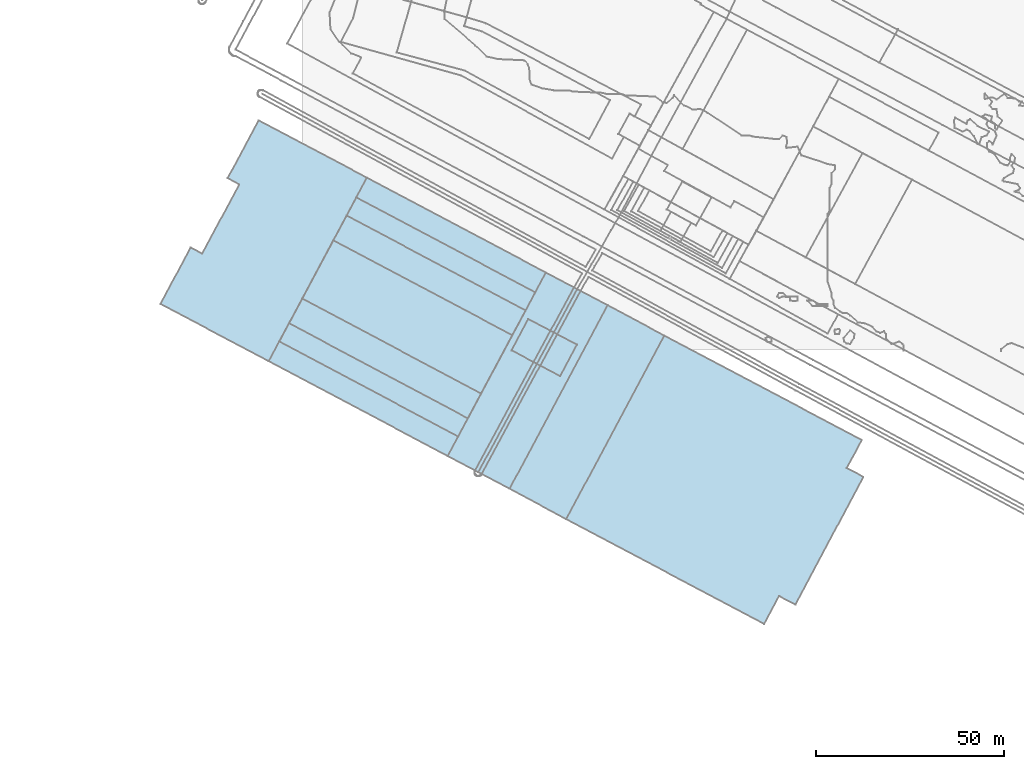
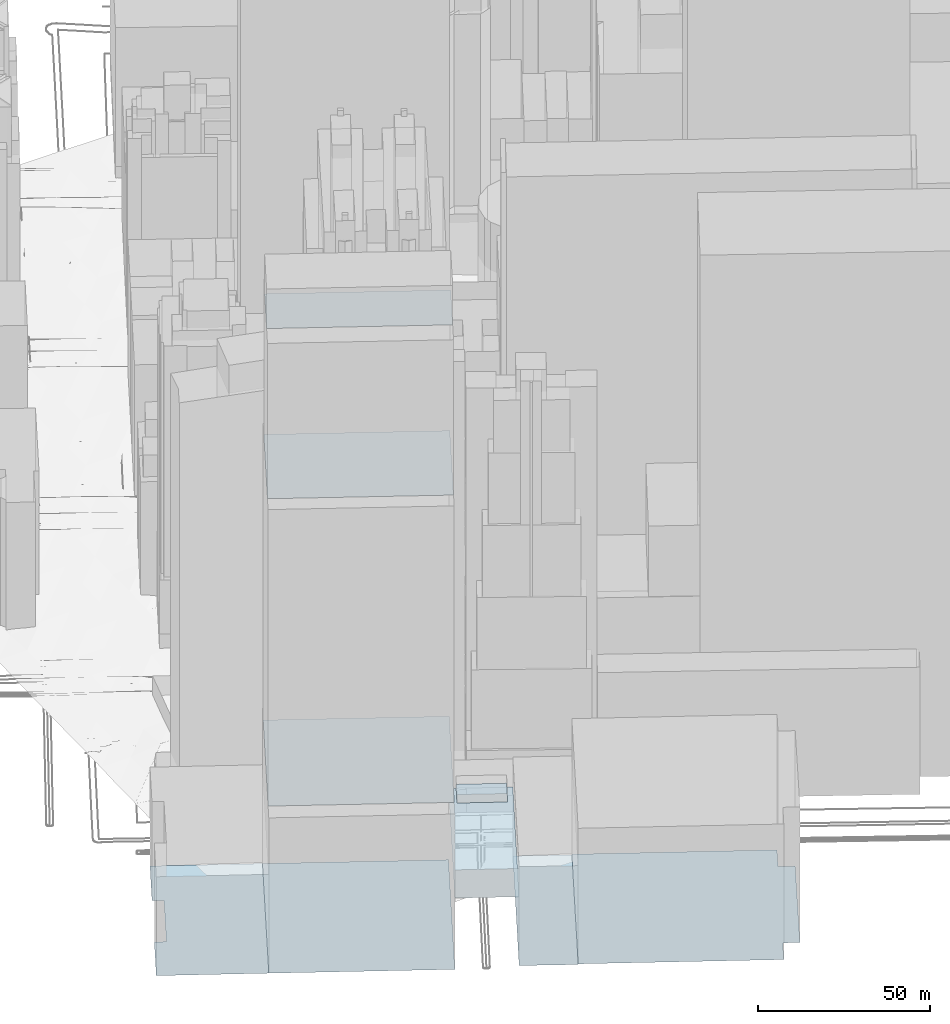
# Not in any storey, part 1 of 80: 9 footings.
"""IFC4 building model written with IfcOpenShell, lengths in metres."""

from ifc_helpers import new_model, si_unit, frame, origin_with_axes, place, context, subcontext, project, spatial, polygons, element, save


model = new_model("IFC4")

# Units and contexts
model_context = context("Model", 3, precision=1e-05, world=origin_with_axes())
body_context = subcontext(model_context, "Body", "Model", "MODEL_VIEW")
ifc_project = project(units=[si_unit("AREAUNIT", "SQUARE_METRE"), si_unit("LENGTHUNIT", "METRE")], contexts=[model_context])

# Sites, building
site_1_placement = place(None, origin_with_axes())
site_1 = spatial("IfcSite", under=ifc_project, at=site_1_placement, Name="Topoexport Site")
site_2_placement = place(site_1_placement, origin_with_axes())
site_2 = spatial("IfcSite", under=site_1, at=site_2_placement, Name="TPX_BATIMENTS")
building_1_placement = place(site_2_placement, frame((70.4319082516, -45.3124381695, 19.6413035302), z_axis=(0.0, 0.0, 1.0), x_axis=(1.0, 0.0, 0.0)))
building_1 = spatial("IfcBuilding", under=site_2, at=building_1_placement, Name="Batiment 153", CompositionType="ELEMENT")

# Footing
footing_1_placement = place(None, frame((70.4319082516, -45.3124381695, 19.6413035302), z_axis=(0.0, 0.0, 1.0), x_axis=(1.0, 0.0, 0.0)))
element("IfcFooting", 1, at=footing_1_placement, inside=building_1, Name="Sol 0", context=body_context, shape_type="Tessellation", body=[
    polygons([(0.0, 0.0, 0.0), (52.7563009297, -27.9312178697, 0.0), (56.721804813, -20.4799520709, 0.0), (61.1215341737, -22.7936176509, 0.0), (79.2214604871, 11.2896457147, 0.0), (74.804734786, 13.6142050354, 0.0), (78.7949988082, 21.1101810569, 0.0), (26.1498243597, 48.9425792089, 0.0)], [[[2, 1, 8]], [[5, 4, 3]], [[8, 7, 6]], [[3, 2, 8]], [[6, 5, 3]], [[3, 8, 6]]]),
])

# Building
building_2_placement = place(site_2_placement, frame((-37.764592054, 12.0631870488, 18.5499973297), z_axis=(0.0, 0.0, 1.0), x_axis=(1.0, 0.0, 0.0)))
building_2 = spatial("IfcBuilding", under=site_2, at=building_2_placement, Name="Batiment 198", CompositionType="ELEMENT")

# Footing
footing_2_placement = place(None, frame((-37.764592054, 12.0631870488, 18.5499973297), z_axis=(0.0, 0.0, 1.0), x_axis=(1.0, 0.0, 0.0)))
element("IfcFooting", 2, at=footing_2_placement, inside=building_2, Name="Sol 0", context=body_context, shape_type="Tessellation", body=[
    polygons([(0.0, 0.0, 0.0), (28.8870060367, -15.2414440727, 0.0), (55.0371870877, 33.7008524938, 0.0), (26.1587518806, 48.9422915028, 0.0), (17.9295410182, 33.536852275, 0.0), (21.0212047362, 31.907372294, 0.0), (11.1393837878, 13.4185558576, 0.0), (8.0475860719, 15.0591407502, 0.0)], [[[2, 1, 8]], [[4, 3, 2]], [[6, 5, 4]], [[2, 8, 7]], [[6, 4, 2]], [[2, 7, 6]]]),
])

# Building
building_3_placement = place(site_2_placement, frame((0.0457305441, 13.5231043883, 233.5817263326), z_axis=(0.0, 0.0, 1.0), x_axis=(1.0, 0.0, 0.0)))
building_3 = spatial("IfcBuilding", under=site_2, at=building_3_placement, Name="Batiment 218", CompositionType="ELEMENT")

# Footing
footing_3_placement = place(None, frame((0.0457305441, 13.5231043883, 233.5817263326), z_axis=(0.0, 0.0, 1.0), x_axis=(1.0, 0.0, 0.0)))
element("IfcFooting", 3, at=footing_3_placement, inside=building_3, Name="Sol 0", context=body_context, shape_type="Tessellation", body=[
    polygons([(0.0, 0.0, 0.0), (47.6860402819, -25.3593207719, 0.0), (56.0060946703, -9.7862176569, 0.0), (8.2954448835, 15.5172515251, 0.0)], [[[2, 1, 4]], [[4, 3, 2]]]),
])

# Building
building_4_placement = place(site_2_placement, frame((-3.482289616, 6.9207531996, 178.5499973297), z_axis=(0.0, 0.0, 1.0), x_axis=(1.0, 0.0, 0.0)))
building_4 = spatial("IfcBuilding", under=site_2, at=building_4_placement, Name="Batiment 219", CompositionType="ELEMENT")

# Footing
footing_4_placement = place(None, frame((-3.482289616, 6.9207531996, 178.5499973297), z_axis=(0.0, 0.0, 1.0), x_axis=(1.0, 0.0, 0.0)))
element("IfcFooting", 4, at=footing_4_placement, inside=building_4, Name="Sol 0", context=body_context, shape_type="Tessellation", body=[
    polygons([(0.0, 0.0, 0.0), (47.6860692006, -25.359343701, 0.0), (63.0622131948, 3.4074130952, 0.0), (15.3430229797, 28.7218621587, 0.0)], [[[2, 1, 4]], [[4, 3, 2]]]),
])

# Building
building_5_placement = place(site_2_placement, frame((-6.0684346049, 2.0834835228, 73.5499973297), z_axis=(0.0, 0.0, 1.0), x_axis=(1.0, 0.0, 0.0)))
building_5 = spatial("IfcBuilding", under=site_2, at=building_5_placement, Name="Batiment 220", CompositionType="ELEMENT")

# Footing
footing_5_placement = place(None, frame((-6.0684346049, 2.0834835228, 73.5499973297), z_axis=(0.0, 0.0, 1.0), x_axis=(1.0, 0.0, 0.0)))
element("IfcFooting", 5, at=footing_5_placement, inside=building_5, Name="Sol 0", context=body_context, shape_type="Tessellation", body=[
    polygons([(0.0, 0.0, 0.0), (47.6862192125, -25.3704612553, 0.0), (68.234328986, 13.0930768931, 0.0), (20.5236005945, 38.4076070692, 0.0)], [[[2, 1, 4]], [[4, 3, 2]]]),
])

# Building
building_6_placement = place(site_2_placement, frame((-8.8775860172, -3.1782570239, 18.5499973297), z_axis=(0.0, 0.0, 1.0), x_axis=(1.0, 0.0, 0.0)))
building_6 = spatial("IfcBuilding", under=site_2, at=building_6_placement, Name="Batiment 221", CompositionType="ELEMENT")

# Footing
footing_6_placement = place(None, frame((-8.8775860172, -3.1782570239, 18.5499973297), z_axis=(0.0, 0.0, 1.0), x_axis=(1.0, 0.0, 0.0)))
element("IfcFooting", 6, at=footing_6_placement, inside=building_6, Name="Sol 0", context=body_context, shape_type="Tessellation", body=[
    polygons([(0.0, 0.0, 0.0), (47.7107911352, -25.3035811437, 0.0), (73.869197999, 23.6389834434, 0.0), (26.150181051, 48.9422965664, 0.0)], [[[2, 1, 4]], [[4, 3, 2]]]),
])

# Building
building_7_placement = place(site_2_placement, frame((55.3366535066, -37.1942935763, 19.4063848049), z_axis=(0.0, 0.0, 1.0), x_axis=(1.0, 0.0, 0.0)))
building_7 = spatial("IfcBuilding", under=site_2, at=building_7_placement, Name="Batiment 222", CompositionType="ELEMENT")

# Footing
footing_7_placement = place(None, frame((55.3366535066, -37.1942935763, 19.4063848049), z_axis=(0.0, 0.0, 1.0), x_axis=(1.0, 0.0, 0.0)))
element("IfcFooting", 7, at=footing_7_placement, inside=building_7, Name="Sol 0", context=body_context, shape_type="Tessellation", body=[
    polygons([(0.0, 0.0, 0.0), (15.095254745, -8.1181445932, 0.0), (41.2450791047, 40.8244346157, 0.0), (26.1500207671, 48.9314246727, 0.0)], [[[2, 1, 4]], [[4, 3, 2]]]),
])

# Building
building_8_placement = place(site_2_placement, frame((55.8285008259, -0.2958209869, 54.4127792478), z_axis=(0.0, 0.0, 1.0), x_axis=(1.0, 0.0, 0.0)))
building_8 = spatial("IfcBuilding", under=site_2, at=building_8_placement, Name="Batiment 223", CompositionType="ELEMENT")

# Footing
footing_8_placement = place(None, frame((55.8285008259, -0.2958209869, 54.4127792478), z_axis=(0.0, 0.0, 1.0), x_axis=(1.0, 0.0, 0.0)))
element("IfcFooting", 8, at=footing_8_placement, inside=building_8, Name="Sol 0", context=body_context, shape_type="Tessellation", body=[
    polygons([(0.0, 0.0, 0.0), (13.0041051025, -6.8767632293, 0.0), (17.4570509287, 1.4905172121, 0.0), (4.453084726, 8.356171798, 0.0)], [[[2, 1, 4]], [[4, 3, 2]]]),
])

# Building
building_9_placement = place(site_2_placement, frame((38.833205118, -28.4818381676, 43.7777920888), z_axis=(0.0, 0.0, 1.0), x_axis=(1.0, 0.0, 0.0)))
building_9 = spatial("IfcBuilding", under=site_2, at=building_9_placement, Name="Batiment 224", CompositionType="ELEMENT")

# Footing
footing_9_placement = place(None, frame((38.833205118, -28.4818381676, 43.7777920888), z_axis=(0.0, 0.0, 1.0), x_axis=(1.0, 0.0, 0.0)))
element("IfcFooting", 9, at=footing_9_placement, inside=building_9, Name="Sol 0", context=body_context, shape_type="Tessellation", body=[
    polygons([(0.0, 0.0, 0.0), (16.5034483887, -8.7124554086, 0.0), (42.6534691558, 40.2189692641, 0.0), (26.1584068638, 48.9425645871, 0.0)], [[[2, 1, 4]], [[4, 3, 2]]]),
])

save(model, "model.ifc")
